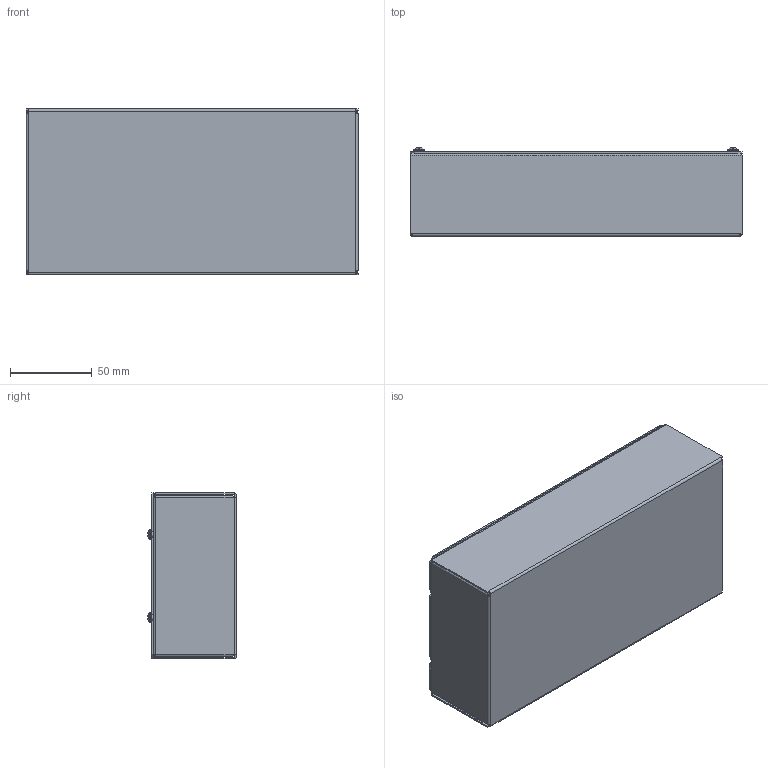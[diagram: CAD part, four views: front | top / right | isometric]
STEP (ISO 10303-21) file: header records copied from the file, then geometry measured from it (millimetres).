
FILE_DESCRIPTION((''),'2;1');
FILE_NAME('E:\Eng\Customer Service\Drawings\1441 & 1431\STEP Files\1441-10\1441-10 - Assembly.iam.stp','2013-07-10T11:32:40',(''),(''),'Autodesk Inventor 2013','Autodesk Inventor 2013','');
FILE_SCHEMA(('AUTOMOTIVE_DESIGN { 1 0 10303 214 1 1 1 1 }'));
Length unit declared in the file: inch
Products named in the file (4): 1441-10 - Assembly; 1441-10; 1431-10; 6-32 (SC18394)
Assembly tree (6 placements, depth 2):
  1441-10 - Assembly
    1441-10
    1431-10
    6-32 (SC18394)  x4
Bounding box: 203.2 x 54.23 x 101.6 mm (x, y, z)
Volume: 71110.8 mm3; surface area: 157020 mm2
Topology: 6 solids, 6 shells, 248 faces, 616 edges, 384 vertices
Faces by surface type: plane 184, cylinder 40, bspline 16, torus 8
Full cylindrical faces by diameter (mm): 2.946 x4, 3.404 x4, 6.731 x4
Entity records: 5192 total; most frequent: CARTESIAN_POINT 1247, ORIENTED_EDGE 794, DIRECTION 758, EDGE_CURVE 397, VECTOR 310, LINE 310, VERTEX_POINT 245, AXIS2_PLACEMENT_3D 224
